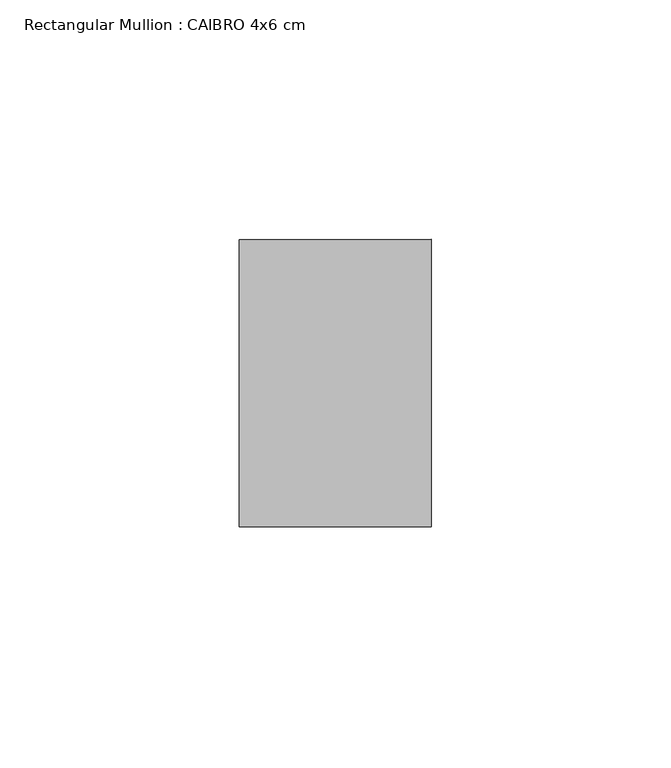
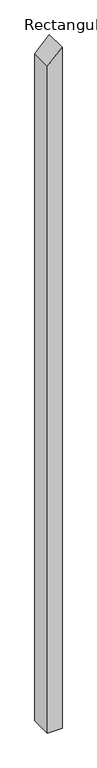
"""IFC4 building model written with IfcOpenShell, lengths in millimetres: member geometry, Rectangular Mullion : CAIBRO 4x6 cm."""

from ifc_helpers import new_model, si_unit, frame, origin, place, context, project, spatial, polyline, outline, extrude, source, transform, mapped, element, save


def rectangular_mullion_caibro_4x6_cm_2be9870d(model_context):
    return source(origin(), model_context, "Body", "SweptSolid", [
        extrude(outline(polyline([(-36.6621022, 20.0), (-77.109599, -20.0), (-2019.1768235, -20.0), (-2019.1768235, 20.0), (-36.6621022, 20.0)])), frame((0.0, 0.0, 0.0), z_axis=(0.0, 1.0, 0.0), x_axis=(0.0, 0.0, 1.0)), (0.0, 0.0, 1.0), 60.0),
    ])


if __name__ == "__main__":
    model = new_model("IFC4")
    model_context = context("Model", 3, world=origin())
    ifc_project = project(units=[si_unit("LENGTHUNIT", "METRE", prefix="MILLI")], contexts=[model_context])
    site = spatial("IfcSite", under=ifc_project)
    building = spatial("IfcBuilding", under=site)
    placement = place(None, origin())
    rectangular_mullion_caibro_4x6_cm_shape = rectangular_mullion_caibro_4x6_cm_2be9870d(model_context)
    element("IfcMember", 1, ObjectType="Rectangular Mullion : CAIBRO 4x6 cm", at=placement, inside=building, context=model_context, shape_type="MappedRepresentation", body=[
        mapped(rectangular_mullion_caibro_4x6_cm_shape, transform((0.0, 0.0, 0.0), x_axis=(1.0, 0.0, 0.0), y_axis=(0.0, 1.0, 0.0), z_axis=(0.0, 0.0, 1.0))),
    ])
    save(model, "model.ifc")
